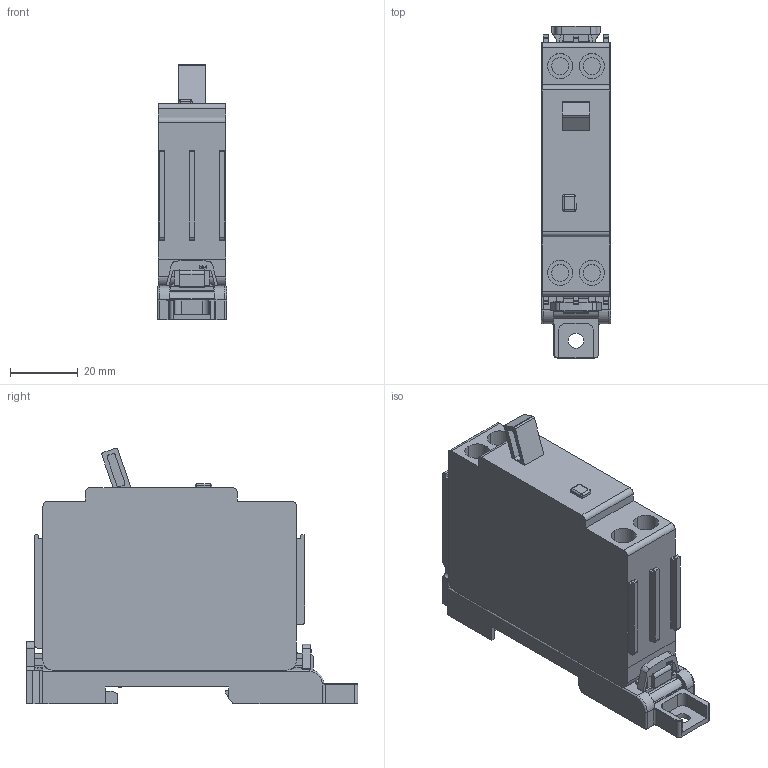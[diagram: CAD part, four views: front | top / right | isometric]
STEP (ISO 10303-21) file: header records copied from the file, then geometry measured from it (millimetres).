
FILE_DESCRIPTION (( 'STEP AP203' ), '1' );
FILE_NAME ('32F + Easy Con.STEP', '2018-01-04T00:40:30', ( '' ), ( '' ), 'SwSTEP 2.0', 'SolidWorks 2015', '' );
FILE_SCHEMA (( 'CONFIG_CONTROL_DESIGN' ));
Length unit declared in the file: millimetre
Products named in the file (1): 32F + Easy Con
Bounding box: 20.5 x 98.2 x 75.69 mm (x, y, z)
Volume: 83196.7 mm3; surface area: 26999.1 mm2
Topology: 3 solids, 3 shells, 717 faces, 1975 edges, 1296 vertices
Faces by surface type: plane 443, cylinder 196, bspline 60, torus 14, sphere 4
Entity records: 25576 total; most frequent: CARTESIAN_POINT 7230, ORIENTED_EDGE 3938, DIRECTION 3603, EDGE_CURVE 1969, VECTOR 1405, LINE 1405, VERTEX_POINT 1296, AXIS2_PLACEMENT_3D 1099
